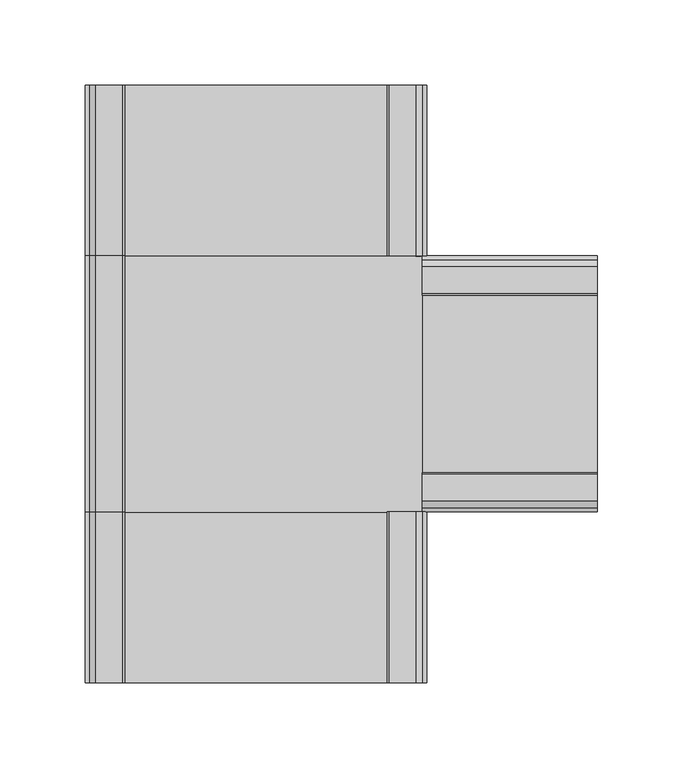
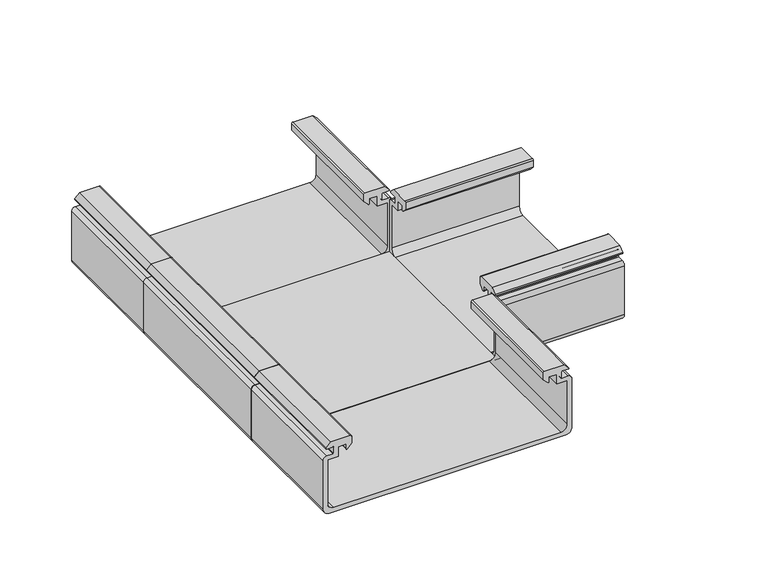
"""IFC4 building model written with IfcOpenShell, lengths in millimetres: cable carrier fitting geometry, TEBPE_Horizontal Tee_Basorplast : 2 x Basorplast PDBPE."""

from ifc_helpers import new_model, si_unit, point, frame, frame_2d, origin, place, context, project, spatial, polyline, circle_curve, trimmed, segment, composite_curve, outline, extrude, source, transform, mapped, element, save
from ifc_brep_helpers import plane_surface, cylinder_surface, revolved_surface, advanced_brep


def cable_carrier_fitting_498f85e9(model_context):
    return source(origin(), model_context, "Body", "SolidModel", [
        extrude(outline(composite_curve([segment(polyline([(-30.0, 97.46), (-26.4, 97.46), (-26.4, -91.4)]), True, "CONTINUOUS"), segment(trimmed(circle_curve(frame_2d((-21.4, -91.4)), 5.0), [point((-26.4, -91.4))], [point((-21.4, -96.4))], True, "CARTESIAN"), True, "CONTINUOUS"), segment(polyline([(-21.4, -96.4), (15.7, -96.4), (15.7, -87.9), (24.0, -87.9), (24.0, -81.5), (20.0, -81.5)]), True, "CONTINUOUS"), segment(trimmed(circle_curve(frame_2d((20.0, -81.0)), 0.5), [point((20.0, -81.5))], [point((19.6464466, -80.6464466))], False, "CARTESIAN"), True, "CONTINUOUS"), segment(polyline([(19.6464466, -80.6464466), (23.2928932, -77.0), (29.0, -77.0)]), True, "CONTINUOUS"), segment(trimmed(circle_curve(frame_2d((29.0, -78.0)), 1.0), [point((29.0, -77.0))], [point((30.0, -78.0))], False, "CARTESIAN"), True, "CONTINUOUS"), segment(polyline([(30.0, -78.0), (30.0, -93.8), (26.3, -97.5), (25.3, -97.5), (25.3, -92.0)]), True, "CONTINUOUS"), segment(trimmed(circle_curve(frame_2d((24.8, -92.0)), 0.5), [point((25.3, -92.0))], [point((24.8, -91.5))], True, "CARTESIAN"), True, "CONTINUOUS"), segment(polyline([(24.8, -91.5), (19.8, -91.5)]), True, "CONTINUOUS"), segment(trimmed(circle_curve(frame_2d((19.8, -92.0)), 0.5), [point((19.8, -91.5))], [point((19.3, -92.0))], True, "CARTESIAN"), True, "CONTINUOUS"), segment(polyline([(19.3, -92.0), (19.3, -97.0)]), True, "CONTINUOUS"), segment(trimmed(circle_curve(frame_2d((16.3, -97.0)), 3.0), [point((19.3, -97.0))], [point((16.3, -100.0))], False, "CARTESIAN"), True, "CONTINUOUS"), segment(polyline([(16.3, -100.0), (-25.0, -100.0)]), True, "CONTINUOUS"), segment(trimmed(circle_curve(frame_2d((-25.0, -95.0)), 5.0), [point((-25.0, -100.0))], [point((-30.0, -95.0))], False, "CARTESIAN"), True, "CONTINUOUS"), segment(polyline([(-30.0, -95.0), (-30.0, 97.46)]), True, "CONTINUOUS")], self_intersect=False)), frame((0.0, -75.0, 0.0), z_axis=(0.0, 1.0, 0.0), x_axis=(0.0, 0.0, 1.0)), (0.0, 0.0, 1.0), 150.0),
        extrude(outline(composite_curve([segment(trimmed(circle_curve(frame_2d((20.0, 81.0)), 0.5), [point((19.6464466, 80.6464466))], [point((20.0, 81.5))], False, "CARTESIAN"), True, "CONTINUOUS"), segment(polyline([(20.0, 81.5), (24.0, 81.5), (24.0, 87.9), (15.7, 87.9), (15.7, 96.4), (-21.4, 96.4)]), True, "CONTINUOUS"), segment(trimmed(circle_curve(frame_2d((-21.4, 91.4)), 5.0), [point((-21.4, 96.4))], [point((-26.4, 91.4))], True, "CARTESIAN"), True, "CONTINUOUS"), segment(polyline([(-26.4, 91.4), (-26.4, -91.4)]), True, "CONTINUOUS"), segment(trimmed(circle_curve(frame_2d((-21.4, -91.4)), 5.0), [point((-26.4, -91.4))], [point((-21.4, -96.4))], True, "CARTESIAN"), True, "CONTINUOUS"), segment(polyline([(-21.4, -96.4), (15.7, -96.4), (15.7, -87.9), (24.0, -87.9), (24.0, -81.5), (20.0, -81.5)]), True, "CONTINUOUS"), segment(trimmed(circle_curve(frame_2d((20.0, -81.0)), 0.5), [point((20.0, -81.5))], [point((19.6464466, -80.6464466))], False, "CARTESIAN"), True, "CONTINUOUS"), segment(polyline([(19.6464466, -80.6464466), (23.2928932, -77.0), (29.0, -77.0)]), True, "CONTINUOUS"), segment(trimmed(circle_curve(frame_2d((29.0, -78.0)), 1.0), [point((29.0, -77.0))], [point((30.0, -78.0))], False, "CARTESIAN"), True, "CONTINUOUS"), segment(polyline([(30.0, -78.0), (30.0, -93.8), (26.3, -97.5), (25.3, -97.5), (25.3, -92.0)]), True, "CONTINUOUS"), segment(trimmed(circle_curve(frame_2d((24.8, -92.0)), 0.5), [point((25.3, -92.0))], [point((24.8, -91.5))], True, "CARTESIAN"), True, "CONTINUOUS"), segment(polyline([(24.8, -91.5), (19.8, -91.5)]), True, "CONTINUOUS"), segment(trimmed(circle_curve(frame_2d((19.8, -92.0)), 0.5), [point((19.8, -91.5))], [point((19.3, -92.0))], True, "CARTESIAN"), True, "CONTINUOUS"), segment(polyline([(19.3, -92.0), (19.3, -97.0)]), True, "CONTINUOUS"), segment(trimmed(circle_curve(frame_2d((16.3, -97.0)), 3.0), [point((19.3, -97.0))], [point((16.3, -100.0))], False, "CARTESIAN"), True, "CONTINUOUS"), segment(polyline([(16.3, -100.0), (-25.0, -100.0)]), True, "CONTINUOUS"), segment(trimmed(circle_curve(frame_2d((-25.0, -95.0)), 5.0), [point((-25.0, -100.0))], [point((-30.0, -95.0))], False, "CARTESIAN"), True, "CONTINUOUS"), segment(polyline([(-30.0, -95.0), (-30.0, 95.0)]), True, "CONTINUOUS"), segment(trimmed(circle_curve(frame_2d((-25.0, 95.0)), 5.0), [point((-30.0, 95.0))], [point((-25.0, 100.0))], False, "CARTESIAN"), True, "CONTINUOUS"), segment(polyline([(-25.0, 100.0), (16.3, 100.0)]), True, "CONTINUOUS"), segment(trimmed(circle_curve(frame_2d((16.3, 97.0)), 3.0), [point((16.3, 100.0))], [point((19.3, 97.0))], False, "CARTESIAN"), True, "CONTINUOUS"), segment(polyline([(19.3, 97.0), (19.3, 92.0)]), True, "CONTINUOUS"), segment(trimmed(circle_curve(frame_2d((19.8, 92.0)), 0.5), [point((19.3, 92.0))], [point((19.8, 91.5))], True, "CARTESIAN"), True, "CONTINUOUS"), segment(polyline([(19.8, 91.5), (24.8, 91.5)]), True, "CONTINUOUS"), segment(trimmed(circle_curve(frame_2d((24.8, 92.0)), 0.5), [point((24.8, 91.5))], [point((25.3, 92.0))], True, "CARTESIAN"), True, "CONTINUOUS"), segment(polyline([(25.3, 92.0), (25.3, 97.5), (26.3, 97.5), (30.0, 93.8), (30.0, 78.0)]), True, "CONTINUOUS"), segment(trimmed(circle_curve(frame_2d((29.0, 78.0)), 1.0), [point((30.0, 78.0))], [point((29.0, 77.0))], False, "CARTESIAN"), True, "CONTINUOUS"), segment(polyline([(29.0, 77.0), (23.2928932, 77.0), (19.6464466, 80.6464466)]), True, "CONTINUOUS")], self_intersect=False)), frame((0.0, 75.0, 0.0), z_axis=(0.0, 1.0, 0.0), x_axis=(0.0, 0.0, 1.0)), (0.0, 0.0, 1.0), 100.0),
        advanced_brep(
        [(97.46, -55.6464466, 19.6464466), (97.46, -56.5, 20.0), (97.46, -56.5, 24.0), (97.46, -62.9, 24.0), (97.46, -62.9, 15.7), (97.46, -71.4, 15.7), (97.46, -71.4, -21.4), (97.46, -66.4, -26.4), (97.46, 66.4, -26.4), (97.46, 71.4, -21.4), (97.46, 71.4, 15.7), (97.46, 62.9, 15.7), (97.46, 62.9, 24.0), (97.46, 56.5, 24.0), (97.46, 56.5, 20.0), (97.46, 55.6464466, 19.6464466), (97.46, 52.0, 23.2928932), (97.46, 52.0, 29.0), (97.46, 53.0, 30.0), (97.46, 68.8, 30.0), (97.46, 72.5, 26.3), (97.46, 72.5, 25.3), (97.46, 67.0, 25.3), (97.46, 66.5, 24.8), (97.46, 66.5, 19.8), (97.46, 67.0, 19.3), (97.46, 72.0, 19.3), (97.46, 75.0, 16.3), (97.46, 75.0, -25.0), (97.46, 70.0, -30.0), (97.46, -70.0, -30.0), (97.46, -75.0, -25.0), (97.46, -75.0, 16.3), (97.46, -72.0, 19.3), (97.46, -67.0, 19.3), (97.46, -66.5, 19.8), (97.46, -66.5, 24.8), (97.46, -67.0, 25.3), (97.46, -72.5, 25.3), (97.46, -72.5, 26.3), (97.46, -68.8, 30.0), (97.46, -53.0, 30.0), (97.46, -52.0, 29.0), (97.46, -52.0, 23.2928932), (200.0, -55.6464466, 19.6464466), (200.0, -52.0, 23.2928932), (200.0, -52.0, 29.0), (200.0, -53.0, 30.0), (200.0, -68.8, 30.0), (200.0, -72.5, 26.3), (200.0, -72.5, 25.3), (200.0, -67.0, 25.3), (200.0, -66.5, 24.8), (200.0, -66.5, 19.8), (200.0, -67.0, 19.3), (200.0, -72.0, 19.3), (200.0, -75.0, 16.3), (200.0, -75.0, -25.0), (200.0, -70.0, -30.0), (200.0, 70.0, -30.0), (200.0, 75.0, -25.0), (200.0, 75.0, 16.3), (200.0, 72.0, 19.3), (200.0, 67.0, 19.3), (200.0, 66.5, 19.8), (200.0, 66.5, 24.8), (200.0, 67.0, 25.3), (200.0, 72.5, 25.3), (200.0, 72.5, 26.3), (200.0, 68.8, 30.0), (200.0, 53.0, 30.0), (200.0, 52.0, 29.0), (200.0, 52.0, 23.2928932), (200.0, 55.6464466, 19.6464466), (200.0, 56.5, 20.0), (200.0, 56.5, 24.0), (200.0, 62.9, 24.0), (200.0, 62.9, 15.7), (200.0, 71.4, 15.7), (200.0, 71.4, -21.4), (200.0, 66.4, -26.4), (200.0, -66.4, -26.4), (200.0, -71.4, -21.4), (200.0, -71.4, 15.7), (200.0, -62.9, 15.7), (200.0, -62.9, 24.0), (200.0, -56.5, 24.0), (200.0, -56.5, 20.0), (100.0, -75.0, -25.0), (100.0, -75.0, 16.3), (80.6464466, -175.0, 19.6464466), (81.5, -175.0, 20.0), (81.5, -175.0, 24.0), (87.9, -175.0, 24.0), (87.9, -175.0, 15.7), (96.4, -175.0, 15.7), (96.4, -175.0, -21.4), (91.4, -175.0, -26.4), (-91.4, -175.0, -26.4), (-96.4, -175.0, -21.4), (-96.4, -175.0, 15.7), (-87.9, -175.0, 15.7), (-87.9, -175.0, 24.0), (-81.5, -175.0, 24.0), (-81.5, -175.0, 20.0), (-80.6464466, -175.0, 19.6464466), (-77.0, -175.0, 23.2928932), (-77.0, -175.0, 29.0), (-78.0, -175.0, 30.0), (-93.8, -175.0, 30.0), (-97.5, -175.0, 26.3), (-97.5, -175.0, 25.3), (-92.0, -175.0, 25.3), (-91.5, -175.0, 24.8), (-91.5, -175.0, 19.8), (-92.0, -175.0, 19.3), (-97.0, -175.0, 19.3), (-100.0, -175.0, 16.3), (-100.0, -175.0, -25.0), (-95.0, -175.0, -30.0), (95.0, -175.0, -30.0), (100.0, -175.0, -25.0), (100.0, -175.0, 16.3), (97.0, -175.0, 19.3), (92.0, -175.0, 19.3), (91.5, -175.0, 19.8), (91.5, -175.0, 24.8), (92.0, -175.0, 25.3), (97.5, -175.0, 25.3), (97.5, -175.0, 26.3), (93.8, -175.0, 30.0), (78.0, -175.0, 30.0), (77.0, -175.0, 29.0), (77.0, -175.0, 23.2928932), (80.6464466, -75.0, 19.6464466), (77.0, -75.0, 23.2928932), (77.0, -75.0, 29.0), (78.0, -75.0, 30.0), (93.8, -75.0, 30.0), (97.5, -75.0, 26.3), (97.5, -75.0, 25.3), (92.0, -75.0, 25.3), (91.5, -75.0, 24.8), (91.5, -75.0, 19.8), (92.0, -75.0, 19.3), (97.0, -75.0, 19.3), (95.0, -75.0, -30.0), (-95.0, -75.0, -30.0), (-100.0, -75.0, -25.0), (-100.0, -75.0, 16.3), (-97.0, -75.0, 19.3), (-92.0, -75.0, 19.3), (-91.5, -75.0, 19.8), (-91.5, -75.0, 24.8), (-92.0, -75.0, 25.3), (-97.5, -75.0, 25.3), (-97.5, -75.0, 26.3), (-93.8, -75.0, 30.0), (-78.0, -75.0, 30.0), (-77.0, -75.0, 29.0), (-77.0, -75.0, 23.2928932), (-80.6464466, -75.0, 19.6464466), (-81.5, -75.0, 20.0), (-81.5, -75.0, 24.0), (-87.9, -75.0, 24.0), (-87.9, -75.0, 15.7), (-96.4, -75.0, 15.7), (-96.4, -75.0, -21.4), (-91.4, -75.0, -26.4), (91.4, -75.0, -26.4), (96.4, -75.0, -21.4), (96.4, -75.0, 15.7), (87.9, -75.0, 15.7), (87.9, -75.0, 24.0), (81.5, -75.0, 24.0), (81.5, -75.0, 20.0)],
        [
            (0, 1, circle_curve(frame((97.46, -56.0, 20.0), z_axis=(-1.0, 0.0, 0.0), x_axis=(0.0, 1.0, 0.0)), 0.5)),
            (1, 2),
            (2, 3),
            (3, 4),
            (4, 5),
            (5, 6),
            (6, 7, circle_curve(frame((97.46, -66.4, -21.4), z_axis=(1.0, 0.0, 0.0), x_axis=(0.0, 1.0, 0.0)), 5.0)),
            (7, 8),
            (8, 9, circle_curve(frame((97.46, 66.4, -21.4), z_axis=(1.0, 0.0, 0.0), x_axis=(0.0, 1.0, 0.0)), 5.0)),
            (9, 10),
            (10, 11),
            (11, 12),
            (12, 13),
            (13, 14),
            (14, 15, circle_curve(frame((97.46, 56.0, 20.0), z_axis=(-1.0, 0.0, 0.0), x_axis=(0.0, 1.0, 0.0)), 0.5)),
            (15, 16),
            (16, 17),
            (17, 18, circle_curve(frame((97.46, 53.0, 29.0), z_axis=(-1.0, 0.0, 0.0), x_axis=(0.0, 1.0, 0.0)), 1.0)),
            (18, 19),
            (19, 20),
            (20, 21),
            (21, 22),
            (22, 23, circle_curve(frame((97.46, 67.0, 24.8), z_axis=(1.0, 0.0, 0.0), x_axis=(0.0, 1.0, 0.0)), 0.5)),
            (23, 24),
            (24, 25, circle_curve(frame((97.46, 67.0, 19.8), z_axis=(1.0, 0.0, 0.0), x_axis=(0.0, 1.0, 0.0)), 0.5)),
            (25, 26),
            (26, 27, circle_curve(frame((97.46, 72.0, 16.3), z_axis=(-1.0, 0.0, 0.0), x_axis=(0.0, 1.0, 0.0)), 3.0)),
            (27, 28),
            (28, 29, circle_curve(frame((97.46, 70.0, -25.0), z_axis=(-1.0, 0.0, 0.0), x_axis=(0.0, 1.0, 0.0)), 5.0)),
            (29, 30),
            (30, 31, circle_curve(frame((97.46, -70.0, -25.0), z_axis=(-1.0, 0.0, 0.0), x_axis=(0.0, 1.0, 0.0)), 5.0)),
            (31, 32),
            (32, 33, circle_curve(frame((97.46, -72.0, 16.3), z_axis=(-1.0, 0.0, 0.0), x_axis=(0.0, 1.0, 0.0)), 3.0)),
            (33, 34),
            (34, 35, circle_curve(frame((97.46, -67.0, 19.8), z_axis=(1.0, 0.0, 0.0), x_axis=(0.0, 1.0, 0.0)), 0.5)),
            (35, 36),
            (36, 37, circle_curve(frame((97.46, -67.0, 24.8), z_axis=(1.0, 0.0, 0.0), x_axis=(0.0, 1.0, 0.0)), 0.5)),
            (37, 38),
            (38, 39),
            (39, 40),
            (40, 41),
            (41, 42, circle_curve(frame((97.46, -53.0, 29.0), z_axis=(-1.0, 0.0, 0.0), x_axis=(0.0, 1.0, 0.0)), 1.0)),
            (42, 43),
            (43, 0),
            (44, 45),
            (45, 46),
            (46, 47, circle_curve(frame((200.0, -53.0, 29.0), z_axis=(1.0, 0.0, 0.0), x_axis=(0.0, 1.0, 0.0)), 1.0)),
            (47, 48),
            (48, 49),
            (49, 50),
            (50, 51),
            (51, 52, circle_curve(frame((200.0, -67.0, 24.8), z_axis=(-1.0, 0.0, 0.0), x_axis=(0.0, 1.0, 0.0)), 0.5)),
            (52, 53),
            (53, 54, circle_curve(frame((200.0, -67.0, 19.8), z_axis=(-1.0, 0.0, 0.0), x_axis=(0.0, 1.0, 0.0)), 0.5)),
            (54, 55),
            (55, 56, circle_curve(frame((200.0, -72.0, 16.3), z_axis=(1.0, 0.0, 0.0), x_axis=(0.0, 1.0, 0.0)), 3.0)),
            (56, 57),
            (57, 58, circle_curve(frame((200.0, -70.0, -25.0), z_axis=(1.0, 0.0, 0.0), x_axis=(0.0, 1.0, 0.0)), 5.0)),
            (58, 59),
            (59, 60, circle_curve(frame((200.0, 70.0, -25.0), z_axis=(1.0, 0.0, 0.0), x_axis=(0.0, 1.0, 0.0)), 5.0)),
            (60, 61),
            (61, 62, circle_curve(frame((200.0, 72.0, 16.3), z_axis=(1.0, 0.0, 0.0), x_axis=(0.0, 1.0, 0.0)), 3.0)),
            (62, 63),
            (63, 64, circle_curve(frame((200.0, 67.0, 19.8), z_axis=(-1.0, 0.0, 0.0), x_axis=(0.0, 1.0, 0.0)), 0.5)),
            (64, 65),
            (65, 66, circle_curve(frame((200.0, 67.0, 24.8), z_axis=(-1.0, 0.0, 0.0), x_axis=(0.0, 1.0, 0.0)), 0.5)),
            (66, 67),
            (67, 68),
            (68, 69),
            (69, 70),
            (70, 71, circle_curve(frame((200.0, 53.0, 29.0), z_axis=(1.0, 0.0, 0.0), x_axis=(0.0, 1.0, 0.0)), 1.0)),
            (71, 72),
            (72, 73),
            (73, 74, circle_curve(frame((200.0, 56.0, 20.0), z_axis=(1.0, 0.0, 0.0), x_axis=(0.0, 1.0, 0.0)), 0.5)),
            (74, 75),
            (75, 76),
            (76, 77),
            (77, 78),
            (78, 79),
            (79, 80, circle_curve(frame((200.0, 66.4, -21.4), z_axis=(-1.0, 0.0, 0.0), x_axis=(0.0, 1.0, 0.0)), 5.0)),
            (80, 81),
            (81, 82, circle_curve(frame((200.0, -66.4, -21.4), z_axis=(-1.0, 0.0, 0.0), x_axis=(0.0, 1.0, 0.0)), 5.0)),
            (82, 83),
            (83, 84),
            (84, 85),
            (85, 86),
            (86, 87),
            (87, 44, circle_curve(frame((200.0, -56.0, 20.0), z_axis=(1.0, 0.0, 0.0), x_axis=(0.0, 1.0, 0.0)), 0.5)),
            (0, 44),
            (87, 1),
            (86, 2),
            (85, 3),
            (84, 4),
            (83, 5),
            (82, 6),
            (81, 7),
            (80, 8),
            (79, 9),
            (78, 10),
            (77, 11),
            (76, 12),
            (75, 13),
            (74, 14),
            (73, 15),
            (72, 16),
            (71, 17),
            (70, 18),
            (69, 19),
            (68, 20),
            (67, 21),
            (66, 22),
            (65, 23),
            (64, 24),
            (63, 25),
            (62, 26),
            (61, 27),
            (60, 28),
            (59, 29),
            (58, 30),
            (57, 88),
            (88, 31),
            (56, 89),
            (89, 88),
            (32, 89),
            (55, 33),
            (54, 34),
            (53, 35),
            (52, 36),
            (51, 37),
            (50, 38),
            (49, 39),
            (48, 40),
            (47, 41),
            (46, 42),
            (45, 43),
            (90, 91, circle_curve(frame((81.0, -175.0, 20.0), z_axis=(0.0, -1.0, 0.0), x_axis=(-1.0, 0.0, 0.0)), 0.5)),
            (91, 92),
            (92, 93),
            (93, 94),
            (94, 95),
            (95, 96),
            (96, 97, circle_curve(frame((91.4, -175.0, -21.4), z_axis=(0.0, 1.0, 0.0), x_axis=(-1.0, 0.0, 0.0)), 5.0)),
            (97, 98),
            (98, 99, circle_curve(frame((-91.4, -175.0, -21.4), z_axis=(0.0, 1.0, 0.0), x_axis=(-1.0, 0.0, 0.0)), 5.0)),
            (99, 100),
            (100, 101),
            (101, 102),
            (102, 103),
            (103, 104),
            (104, 105, circle_curve(frame((-81.0, -175.0, 20.0), z_axis=(0.0, -1.0, 0.0), x_axis=(-1.0, 0.0, 0.0)), 0.5)),
            (105, 106),
            (106, 107),
            (107, 108, circle_curve(frame((-78.0, -175.0, 29.0), z_axis=(0.0, -1.0, 0.0), x_axis=(-1.0, 0.0, 0.0)), 1.0)),
            (108, 109),
            (109, 110),
            (110, 111),
            (111, 112),
            (112, 113, circle_curve(frame((-92.0, -175.0, 24.8), z_axis=(0.0, 1.0, 0.0), x_axis=(-1.0, 0.0, 0.0)), 0.5)),
            (113, 114),
            (114, 115, circle_curve(frame((-92.0, -175.0, 19.8), z_axis=(0.0, 1.0, 0.0), x_axis=(-1.0, 0.0, 0.0)), 0.5)),
            (115, 116),
            (116, 117, circle_curve(frame((-97.0, -175.0, 16.3), z_axis=(0.0, -1.0, 0.0), x_axis=(-1.0, 0.0, 0.0)), 3.0)),
            (117, 118),
            (118, 119, circle_curve(frame((-95.0, -175.0, -25.0), z_axis=(0.0, -1.0, 0.0), x_axis=(-1.0, 0.0, 0.0)), 5.0)),
            (119, 120),
            (120, 121, circle_curve(frame((95.0, -175.0, -25.0), z_axis=(0.0, -1.0, 0.0), x_axis=(-1.0, 0.0, 0.0)), 5.0)),
            (121, 122),
            (122, 123, circle_curve(frame((97.0, -175.0, 16.3), z_axis=(0.0, -1.0, 0.0), x_axis=(-1.0, 0.0, 0.0)), 3.0)),
            (123, 124),
            (124, 125, circle_curve(frame((92.0, -175.0, 19.8), z_axis=(0.0, 1.0, 0.0), x_axis=(-1.0, 0.0, 0.0)), 0.5)),
            (125, 126),
            (126, 127, circle_curve(frame((92.0, -175.0, 24.8), z_axis=(0.0, 1.0, 0.0), x_axis=(-1.0, 0.0, 0.0)), 0.5)),
            (127, 128),
            (128, 129),
            (129, 130),
            (130, 131),
            (131, 132, circle_curve(frame((78.0, -175.0, 29.0), z_axis=(0.0, -1.0, 0.0), x_axis=(-1.0, 0.0, 0.0)), 1.0)),
            (132, 133),
            (133, 90),
            (134, 135),
            (135, 136),
            (136, 137, circle_curve(frame((78.0, -75.0, 29.0), z_axis=(0.0, 1.0, 0.0), x_axis=(-1.0, 0.0, 0.0)), 1.0)),
            (137, 138),
            (138, 139),
            (139, 140),
            (140, 141),
            (141, 142, circle_curve(frame((92.0, -75.0, 24.8), z_axis=(0.0, -1.0, 0.0), x_axis=(-1.0, 0.0, 0.0)), 0.5)),
            (142, 143),
            (143, 144, circle_curve(frame((92.0, -75.0, 19.8), z_axis=(0.0, -1.0, 0.0), x_axis=(-1.0, 0.0, 0.0)), 0.5)),
            (144, 145),
            (145, 89, circle_curve(frame((97.0, -75.0, 16.3), z_axis=(0.0, 1.0, 0.0), x_axis=(-1.0, 0.0, 0.0)), 3.0)),
            (88, 146, circle_curve(frame((95.0, -75.0, -25.0), z_axis=(0.0, 1.0, 0.0), x_axis=(-1.0, 0.0, 0.0)), 5.0)),
            (146, 147),
            (147, 148, circle_curve(frame((-95.0, -75.0, -25.0), z_axis=(0.0, 1.0, 0.0), x_axis=(-1.0, 0.0, 0.0)), 5.0)),
            (148, 149),
            (149, 150, circle_curve(frame((-97.0, -75.0, 16.3), z_axis=(0.0, 1.0, 0.0), x_axis=(-1.0, 0.0, 0.0)), 3.0)),
            (150, 151),
            (151, 152, circle_curve(frame((-92.0, -75.0, 19.8), z_axis=(0.0, -1.0, 0.0), x_axis=(-1.0, 0.0, 0.0)), 0.5)),
            (152, 153),
            (153, 154, circle_curve(frame((-92.0, -75.0, 24.8), z_axis=(0.0, -1.0, 0.0), x_axis=(-1.0, 0.0, 0.0)), 0.5)),
            (154, 155),
            (155, 156),
            (156, 157),
            (157, 158),
            (158, 159, circle_curve(frame((-78.0, -75.0, 29.0), z_axis=(0.0, 1.0, 0.0), x_axis=(-1.0, 0.0, 0.0)), 1.0)),
            (159, 160),
            (160, 161),
            (161, 162, circle_curve(frame((-81.0, -75.0, 20.0), z_axis=(0.0, 1.0, 0.0), x_axis=(-1.0, 0.0, 0.0)), 0.5)),
            (162, 163),
            (163, 164),
            (164, 165),
            (165, 166),
            (166, 167),
            (167, 168, circle_curve(frame((-91.4, -75.0, -21.4), z_axis=(0.0, -1.0, 0.0), x_axis=(-1.0, 0.0, 0.0)), 5.0)),
            (168, 169),
            (169, 170, circle_curve(frame((91.4, -75.0, -21.4), z_axis=(0.0, -1.0, 0.0), x_axis=(-1.0, 0.0, 0.0)), 5.0)),
            (170, 171),
            (171, 172),
            (172, 173),
            (173, 174),
            (174, 175),
            (175, 134, circle_curve(frame((81.0, -75.0, 20.0), z_axis=(0.0, 1.0, 0.0), x_axis=(-1.0, 0.0, 0.0)), 0.5)),
            (90, 134),
            (175, 91),
            (174, 92),
            (173, 93),
            (172, 94),
            (171, 95),
            (96, 170),
            (169, 97),
            (168, 98),
            (167, 99),
            (166, 100),
            (165, 101),
            (164, 102),
            (163, 103),
            (162, 104),
            (161, 105),
            (160, 106),
            (159, 107),
            (158, 108),
            (157, 109),
            (156, 110),
            (155, 111),
            (154, 112),
            (153, 113),
            (152, 114),
            (151, 115),
            (150, 116),
            (149, 117),
            (148, 118),
            (147, 119),
            (146, 120),
            (88, 121),
            (89, 122),
            (145, 123),
            (144, 124),
            (143, 125),
            (142, 126),
            (141, 127),
            (140, 128),
            (139, 129),
            (138, 130),
            (137, 131),
            (136, 132),
            (135, 133),
        ],
        [
            plane_surface(frame((97.46, 0.0, 0.0), z_axis=(-1.0, 0.0, 0.0), x_axis=(0.0, 0.0, 1.0))),
            plane_surface(frame((200.0, 0.0, 0.0), z_axis=(1.0, 0.0, 0.0), x_axis=(0.0, 0.0, 1.0))),
            cylinder_surface(frame((97.46, -56.0, 20.0), z_axis=(-1.0, 0.0, 0.0), x_axis=(0.0, 1.0, 0.0)), 0.5),
            plane_surface(frame((97.46, -56.5, 20.0), z_axis=(0.0, -1.0, 0.0), x_axis=(1.0, 0.0, 0.0))),
            plane_surface(frame((97.46, -56.5, 24.0), z_axis=(0.0, 0.0, -1.0), x_axis=(1.0, 0.0, 0.0))),
            plane_surface(frame((97.46, -62.9, 24.0), z_axis=(0.0, 1.0, 0.0), x_axis=(1.0, 0.0, 0.0))),
            plane_surface(frame((97.46, -62.9, 15.7), z_axis=(0.0, 0.0, -1.0), x_axis=(1.0, 0.0, 0.0))),
            plane_surface(frame((97.46, -71.4, 15.7), z_axis=(0.0, 1.0, 0.0), x_axis=(1.0, 0.0, 0.0))),
            revolved_surface(polyline([(200.0, -61.400000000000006, -21.4), (97.46, -61.400000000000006, -21.4)]), (97.46, -66.4, -21.4), (1.0, 0.0, 0.0)),
            plane_surface(frame((97.46, -66.4, -26.4), z_axis=(0.0, 0.0, 1.0), x_axis=(1.0, 0.0, 0.0))),
            revolved_surface(polyline([(200.0, 71.4, -21.4), (97.46, 71.4, -21.4)]), (97.46, 66.4, -21.4), (1.0, 0.0, 0.0)),
            plane_surface(frame((97.46, 71.4, -21.4), z_axis=(0.0, -1.0, 0.0), x_axis=(1.0, 0.0, 0.0))),
            plane_surface(frame((97.46, 71.4, 15.7), z_axis=(0.0, 0.0, -1.0), x_axis=(1.0, 0.0, 0.0))),
            plane_surface(frame((97.46, 62.9, 15.7), z_axis=(0.0, -1.0, 0.0), x_axis=(1.0, 0.0, 0.0))),
            plane_surface(frame((97.46, 62.9, 24.0), z_axis=(0.0, 0.0, -1.0), x_axis=(1.0, 0.0, 0.0))),
            plane_surface(frame((97.46, 56.5, 24.0), z_axis=(0.0, 1.0, 0.0), x_axis=(1.0, 0.0, 0.0))),
            cylinder_surface(frame((97.46, 56.0, 20.0), z_axis=(-1.0, 0.0, 0.0), x_axis=(0.0, 1.0, 0.0)), 0.5),
            plane_surface(frame((97.46, 55.6464466, 19.6464466), z_axis=(0.0, -0.7071067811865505, -0.7071067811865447), x_axis=(1.0, 0.0, 0.0))),
            plane_surface(frame((97.46, 52.0, 23.2928932), z_axis=(0.0, -1.0, 0.0), x_axis=(1.0, 0.0, 0.0))),
            cylinder_surface(frame((97.46, 53.0, 29.0), z_axis=(-1.0, 0.0, 0.0), x_axis=(0.0, 1.0, 0.0)), 1.0),
            plane_surface(frame((97.46, 53.0, 30.0), z_axis=(0.0, 0.0, 1.0), x_axis=(1.0, 0.0, 0.0))),
            plane_surface(frame((97.46, 68.8, 30.0), z_axis=(0.0, 0.7071067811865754, 0.7071067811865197), x_axis=(1.0, 0.0, 0.0))),
            plane_surface(frame((97.46, 72.5, 26.3), z_axis=(0.0, 1.0, 0.0), x_axis=(1.0, 0.0, 0.0))),
            plane_surface(frame((97.46, 72.5, 25.3), z_axis=(0.0, 0.0, -1.0), x_axis=(1.0, 0.0, 0.0))),
            revolved_surface(polyline([(200.0, 67.5, 24.8), (97.46, 67.5, 24.8)]), (97.46, 67.0, 24.8), (1.0, 0.0, 0.0)),
            plane_surface(frame((97.46, 66.5, 24.8), z_axis=(0.0, 1.0, 0.0), x_axis=(1.0, 0.0, 0.0))),
            revolved_surface(polyline([(200.0, 67.5, 19.8), (97.46, 67.5, 19.8)]), (97.46, 67.0, 19.8), (1.0, 0.0, 0.0)),
            plane_surface(frame((97.46, 67.0, 19.3), z_axis=(0.0, 0.0, 1.0), x_axis=(1.0, 0.0, 0.0))),
            cylinder_surface(frame((97.46, 72.0, 16.3), z_axis=(-1.0, 0.0, 0.0), x_axis=(0.0, 1.0, 0.0)), 3.0),
            plane_surface(frame((97.46, 75.0, 16.3), z_axis=(0.0, 1.0, 0.0), x_axis=(1.0, 0.0, 0.0))),
            cylinder_surface(frame((97.46, 70.0, -25.0), z_axis=(-1.0, 0.0, 0.0), x_axis=(0.0, 1.0, 0.0)), 5.0),
            plane_surface(frame((97.46, 70.0, -30.0), z_axis=(0.0, 0.0, -1.0), x_axis=(1.0, 0.0, 0.0))),
            cylinder_surface(frame((97.46, -70.0, -25.0), z_axis=(-1.0, 0.0, 0.0), x_axis=(0.0, 1.0, 0.0)), 5.0),
            plane_surface(frame((97.46, -75.0, -25.0), z_axis=(0.0, -1.0, 0.0), x_axis=(1.0, 0.0, 0.0))),
            cylinder_surface(frame((97.46, -72.0, 16.3), z_axis=(-1.0, 0.0, 0.0), x_axis=(0.0, 1.0, 0.0)), 3.0),
            plane_surface(frame((97.46, -72.0, 19.3), z_axis=(0.0, 0.0, 1.0), x_axis=(1.0, 0.0, 0.0))),
            revolved_surface(polyline([(200.0, -66.5, 19.8), (97.46, -66.5, 19.8)]), (97.46, -67.0, 19.8), (1.0, 0.0, 0.0)),
            plane_surface(frame((97.46, -66.5, 19.8), z_axis=(0.0, -1.0, 0.0), x_axis=(1.0, 0.0, 0.0))),
            revolved_surface(polyline([(200.0, -66.5, 24.8), (97.46, -66.5, 24.8)]), (97.46, -67.0, 24.8), (1.0, 0.0, 0.0)),
            plane_surface(frame((97.46, -67.0, 25.3), z_axis=(0.0, 0.0, -1.0), x_axis=(1.0, 0.0, 0.0))),
            plane_surface(frame((97.46, -72.5, 25.3), z_axis=(0.0, -1.0, 0.0), x_axis=(1.0, 0.0, 0.0))),
            plane_surface(frame((97.46, -72.5, 26.3), z_axis=(0.0, -0.7071067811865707, 0.7071067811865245), x_axis=(1.0, 0.0, 0.0))),
            plane_surface(frame((97.46, -68.8, 30.0), z_axis=(0.0, 0.0, 1.0), x_axis=(1.0, 0.0, 0.0))),
            cylinder_surface(frame((97.46, -53.0, 29.0), z_axis=(-1.0, 0.0, 0.0), x_axis=(0.0, 1.0, 0.0)), 1.0),
            plane_surface(frame((97.46, -52.0, 29.0), z_axis=(0.0, 1.0, 0.0), x_axis=(1.0, 0.0, 0.0))),
            plane_surface(frame((97.46, -52.0, 23.2928932), z_axis=(0.0, 0.7071067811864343, -0.7071067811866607), x_axis=(1.0, 0.0, 0.0))),
            plane_surface(frame((0.0, -175.0, 0.0), z_axis=(0.0, -1.0, 0.0), x_axis=(0.0, 0.0, 1.0))),
            plane_surface(frame((0.0, -75.0, 0.0), z_axis=(0.0, 1.0, 0.0), x_axis=(0.0, 0.0, 1.0))),
            cylinder_surface(frame((81.0, -175.0, 20.0), z_axis=(0.0, -1.0, 0.0), x_axis=(-1.0, 0.0, 0.0)), 0.5),
            plane_surface(frame((81.5, -175.0, 20.0), z_axis=(1.0, 0.0, 0.0), x_axis=(0.0, 1.0, 0.0))),
            plane_surface(frame((81.5, -175.0, 24.0), z_axis=(0.0, 0.0, -1.0), x_axis=(0.0, 1.0, 0.0))),
            plane_surface(frame((87.9, -175.0, 24.0), z_axis=(-1.0, 0.0, 0.0), x_axis=(0.0, 1.0, 0.0))),
            plane_surface(frame((87.9, -175.0, 15.7), z_axis=(0.0, 0.0, -1.0), x_axis=(0.0, 1.0, 0.0))),
            revolved_surface(polyline([(86.4, -75.0, -21.4), (86.4, -175.0, -21.4)]), (91.4, -175.0, -21.4), (0.0, 1.0, 0.0)),
            plane_surface(frame((91.4, -175.0, -26.4), z_axis=(0.0, 0.0, 1.0), x_axis=(0.0, 1.0, 0.0))),
            revolved_surface(polyline([(-96.4, -75.0, -21.4), (-96.4, -175.0, -21.4)]), (-91.4, -175.0, -21.4), (0.0, 1.0, 0.0)),
            plane_surface(frame((-96.4, -175.0, -21.4), z_axis=(1.0, 0.0, 0.0), x_axis=(0.0, 1.0, 0.0))),
            plane_surface(frame((-96.4, -175.0, 15.7), z_axis=(0.0, 0.0, -1.0), x_axis=(0.0, 1.0, 0.0))),
            plane_surface(frame((-87.9, -175.0, 15.7), z_axis=(1.0, 0.0, 0.0), x_axis=(0.0, 1.0, 0.0))),
            plane_surface(frame((-87.9, -175.0, 24.0), z_axis=(0.0, 0.0, -1.0), x_axis=(0.0, 1.0, 0.0))),
            plane_surface(frame((-81.5, -175.0, 24.0), z_axis=(-1.0, 0.0, 0.0), x_axis=(0.0, 1.0, 0.0))),
            cylinder_surface(frame((-81.0, -175.0, 20.0), z_axis=(0.0, -1.0, 0.0), x_axis=(-1.0, 0.0, 0.0)), 0.5),
            plane_surface(frame((-80.6464466, -175.0, 19.6464466), z_axis=(0.7071067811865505, 0.0, -0.7071067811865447), x_axis=(0.0, 1.0, 0.0))),
            plane_surface(frame((-77.0, -175.0, 23.2928932), z_axis=(1.0, 0.0, 0.0), x_axis=(0.0, 1.0, 0.0))),
            cylinder_surface(frame((-78.0, -175.0, 29.0), z_axis=(0.0, -1.0, 0.0), x_axis=(-1.0, 0.0, 0.0)), 1.0),
            plane_surface(frame((-78.0, -175.0, 30.0), z_axis=(0.0, 0.0, 1.0), x_axis=(0.0, 1.0, 0.0))),
            plane_surface(frame((-93.8, -175.0, 30.0), z_axis=(-0.707106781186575, 0.0, 0.70710678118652), x_axis=(0.0, 1.0, 0.0))),
            plane_surface(frame((-97.5, -175.0, 26.3), z_axis=(-1.0, 0.0, 0.0), x_axis=(0.0, 1.0, 0.0))),
            plane_surface(frame((-97.5, -175.0, 25.3), z_axis=(0.0, 0.0, -1.0), x_axis=(0.0, 1.0, 0.0))),
            revolved_surface(polyline([(-92.5, -75.0, 24.8), (-92.5, -175.0, 24.8)]), (-92.0, -175.0, 24.8), (0.0, 1.0, 0.0)),
            plane_surface(frame((-91.5, -175.0, 24.8), z_axis=(-1.0, 0.0, 0.0), x_axis=(0.0, 1.0, 0.0))),
            revolved_surface(polyline([(-92.5, -75.0, 19.8), (-92.5, -175.0, 19.8)]), (-92.0, -175.0, 19.8), (0.0, 1.0, 0.0)),
            plane_surface(frame((-92.0, -175.0, 19.3), z_axis=(0.0, 0.0, 1.0), x_axis=(0.0, 1.0, 0.0))),
            cylinder_surface(frame((-97.0, -175.0, 16.3), z_axis=(0.0, -1.0, 0.0), x_axis=(-1.0, 0.0, 0.0)), 3.0),
            plane_surface(frame((-100.0, -175.0, 16.3), z_axis=(-1.0, 0.0, 0.0), x_axis=(0.0, 1.0, 0.0))),
            cylinder_surface(frame((-95.0, -175.0, -25.0), z_axis=(0.0, -1.0, 0.0), x_axis=(-1.0, 0.0, 0.0)), 5.0),
            plane_surface(frame((-95.0, -175.0, -30.0), z_axis=(0.0, 0.0, -1.0), x_axis=(0.0, 1.0, 0.0))),
            cylinder_surface(frame((95.0, -175.0, -25.0), z_axis=(0.0, -1.0, 0.0), x_axis=(-1.0, 0.0, 0.0)), 5.0),
            plane_surface(frame((100.0, -175.0, -25.0), z_axis=(1.0, 0.0, 0.0), x_axis=(0.0, 1.0, 0.0))),
            cylinder_surface(frame((97.0, -175.0, 16.3), z_axis=(0.0, -1.0, 0.0), x_axis=(-1.0, 0.0, 0.0)), 3.0),
            plane_surface(frame((97.0, -175.0, 19.3), z_axis=(0.0, 0.0, 1.0), x_axis=(0.0, 1.0, 0.0))),
            revolved_surface(polyline([(91.5, -75.0, 19.8), (91.5, -175.0, 19.8)]), (92.0, -175.0, 19.8), (0.0, 1.0, 0.0)),
            plane_surface(frame((91.5, -175.0, 19.8), z_axis=(1.0, 0.0, 0.0), x_axis=(0.0, 1.0, 0.0))),
            revolved_surface(polyline([(91.5, -75.0, 24.8), (91.5, -175.0, 24.8)]), (92.0, -175.0, 24.8), (0.0, 1.0, 0.0)),
            plane_surface(frame((92.0, -175.0, 25.3), z_axis=(0.0, 0.0, -1.0), x_axis=(0.0, 1.0, 0.0))),
            plane_surface(frame((97.5, -175.0, 25.3), z_axis=(1.0, 0.0, 0.0), x_axis=(0.0, 1.0, 0.0))),
            plane_surface(frame((97.5, -175.0, 26.3), z_axis=(0.7071067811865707, 0.0, 0.7071067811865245), x_axis=(0.0, 1.0, 0.0))),
            plane_surface(frame((93.8, -175.0, 30.0), z_axis=(0.0, 0.0, 1.0), x_axis=(0.0, 1.0, 0.0))),
            cylinder_surface(frame((78.0, -175.0, 29.0), z_axis=(0.0, -1.0, 0.0), x_axis=(-1.0, 0.0, 0.0)), 1.0),
            plane_surface(frame((77.0, -175.0, 29.0), z_axis=(-1.0, 0.0, 0.0), x_axis=(0.0, 1.0, 0.0))),
            plane_surface(frame((77.0, -175.0, 23.2928932), z_axis=(-0.7071067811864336, 0.0, -0.7071067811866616), x_axis=(0.0, 1.0, 0.0))),
            plane_surface(frame((96.4, -175.0, 15.7), z_axis=(-1.0, 0.0, 0.0), x_axis=(0.0, 1.0, 0.0))),
        ],
        [
            (0, [[1, 2, 3, 4, 5, 6, 7, 8, 9, 10, 11, 12, 13, 14, 15, 16, 17, 18, 19, 20, 21, 22, 23, 24, 25, 26, 27, 28, 29, 30, 31, 32, 33, 34, 35, 36, 37, 38, 39, 40, 41, 42, 43, 44]]),
            (1, [[45, 46, 47, 48, 49, 50, 51, 52, 53, 54, 55, 56, 57, 58, 59, 60, 61, 62, 63, 64, 65, 66, 67, 68, 69, 70, 71, 72, 73, 74, 75, 76, 77, 78, 79, 80, 81, 82, 83, 84, 85, 86, 87, 88]]),
            (2, [[-1, 89, -88, 90]]),
            (3, [[-2, -90, -87, 91]]),
            (4, [[-3, -91, -86, 92]]),
            (5, [[-4, -92, -85, 93]]),
            (6, [[-5, -93, -84, 94]]),
            (7, [[-6, -94, -83, 95]]),
            (8, [[-7, -95, -82, 96]]),
            (9, [[-8, -96, -81, 97]]),
            (10, [[-9, -97, -80, 98]]),
            (11, [[-10, -98, -79, 99]]),
            (12, [[-11, -99, -78, 100]]),
            (13, [[-12, -100, -77, 101]]),
            (14, [[-13, -101, -76, 102]]),
            (15, [[-14, -102, -75, 103]]),
            (16, [[-15, -103, -74, 104]]),
            (17, [[-16, -104, -73, 105]]),
            (18, [[-17, -105, -72, 106]]),
            (19, [[-18, -106, -71, 107]]),
            (20, [[-19, -107, -70, 108]]),
            (21, [[-20, -108, -69, 109]]),
            (22, [[-21, -109, -68, 110]]),
            (23, [[-22, -110, -67, 111]]),
            (24, [[-23, -111, -66, 112]]),
            (25, [[-24, -112, -65, 113]]),
            (26, [[-25, -113, -64, 114]]),
            (27, [[-26, -114, -63, 115]]),
            (28, [[-27, -115, -62, 116]]),
            (29, [[-28, -116, -61, 117]]),
            (30, [[-29, -117, -60, 118]]),
            (31, [[-30, -118, -59, 119]]),
            (32, [[-31, -119, -58, 120, 121]]),
            (33, [[-57, 122, 123, -120]]),
            (34, [[-33, 124, -122, -56, 125]]),
            (35, [[-34, -125, -55, 126]]),
            (36, [[-35, -126, -54, 127]]),
            (37, [[-36, -127, -53, 128]]),
            (38, [[-37, -128, -52, 129]]),
            (39, [[-38, -129, -51, 130]]),
            (40, [[-39, -130, -50, 131]]),
            (41, [[-40, -131, -49, 132]]),
            (42, [[-41, -132, -48, 133]]),
            (43, [[-42, -133, -47, 134]]),
            (44, [[-43, -134, -46, 135]]),
            (45, [[-44, -135, -45, -89]]),
            (46, [[136, 137, 138, 139, 140, 141, 142, 143, 144, 145, 146, 147, 148, 149, 150, 151, 152, 153, 154, 155, 156, 157, 158, 159, 160, 161, 162, 163, 164, 165, 166, 167, 168, 169, 170, 171, 172, 173, 174, 175, 176, 177, 178, 179]]),
            (47, [[180, 181, 182, 183, 184, 185, 186, 187, 188, 189, 190, 191, -124, -32, -121, 192, 193, 194, 195, 196, 197, 198, 199, 200, 201, 202, 203, 204, 205, 206, 207, 208, 209, 210, 211, 212, 213, 214, 215, 216, 217, 218, 219, 220, 221, 222]]),
            (48, [[-136, 223, -222, 224]]),
            (49, [[-137, -224, -221, 225]]),
            (50, [[-138, -225, -220, 226]]),
            (51, [[-139, -226, -219, 227]]),
            (52, [[-140, -227, -218, 228]]),
            (53, [[-142, 229, -216, 230]]),
            (54, [[-143, -230, -215, 231]]),
            (55, [[-144, -231, -214, 232]]),
            (56, [[-145, -232, -213, 233]]),
            (57, [[-146, -233, -212, 234]]),
            (58, [[-147, -234, -211, 235]]),
            (59, [[-148, -235, -210, 236]]),
            (60, [[-149, -236, -209, 237]]),
            (61, [[-150, -237, -208, 238]]),
            (62, [[-151, -238, -207, 239]]),
            (63, [[-152, -239, -206, 240]]),
            (64, [[-153, -240, -205, 241]]),
            (65, [[-154, -241, -204, 242]]),
            (66, [[-155, -242, -203, 243]]),
            (67, [[-156, -243, -202, 244]]),
            (68, [[-157, -244, -201, 245]]),
            (69, [[-158, -245, -200, 246]]),
            (70, [[-159, -246, -199, 247]]),
            (71, [[-160, -247, -198, 248]]),
            (72, [[-161, -248, -197, 249]]),
            (73, [[-162, -249, -196, 250]]),
            (74, [[-163, -250, -195, 251]]),
            (75, [[-164, -251, -194, 252]]),
            (76, [[-165, -252, -193, 253]]),
            (77, [[-166, -253, -192, 254]]),
            (78, [[-167, -254, -123, 255]]),
            (79, [[-168, -255, -191, 256]]),
            (80, [[-169, -256, -190, 257]]),
            (81, [[-170, -257, -189, 258]]),
            (82, [[-171, -258, -188, 259]]),
            (83, [[-172, -259, -187, 260]]),
            (84, [[-173, -260, -186, 261]]),
            (85, [[-174, -261, -185, 262]]),
            (86, [[-175, -262, -184, 263]]),
            (87, [[-176, -263, -183, 264]]),
            (88, [[-177, -264, -182, 265]]),
            (89, [[-178, -265, -181, 266]]),
            (90, [[-179, -266, -180, -223]]),
            (91, [[-141, -228, -217, -229]]),
        ],
    ),
    ])


if __name__ == "__main__":
    model = new_model("IFC4")
    model_context = context("Model", 3, world=origin())
    ifc_project = project(units=[si_unit("LENGTHUNIT", "METRE", prefix="MILLI")], contexts=[model_context])
    site = spatial("IfcSite", under=ifc_project)
    building = spatial("IfcBuilding", under=site)
    placement = place(None, origin())
    cable_carrier_fitting_shape = cable_carrier_fitting_498f85e9(model_context)
    element("IfcCableCarrierFitting", 1, ObjectType="TEBPE_Horizontal Tee_Basorplast : 2 x Basorplast PDBPE", at=placement, inside=building, context=model_context, shape_type="MappedRepresentation", body=[
        mapped(cable_carrier_fitting_shape, transform((0.0, 0.0, 0.0), x_axis=(1.0, 0.0, 0.0), y_axis=(0.0, 1.0, 0.0), z_axis=(0.0, 0.0, 1.0))),
    ])
    save(model, "model.ifc")
